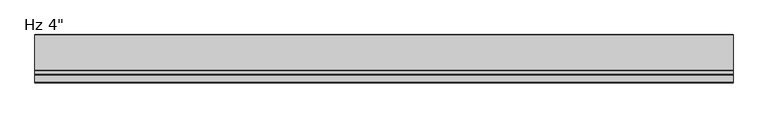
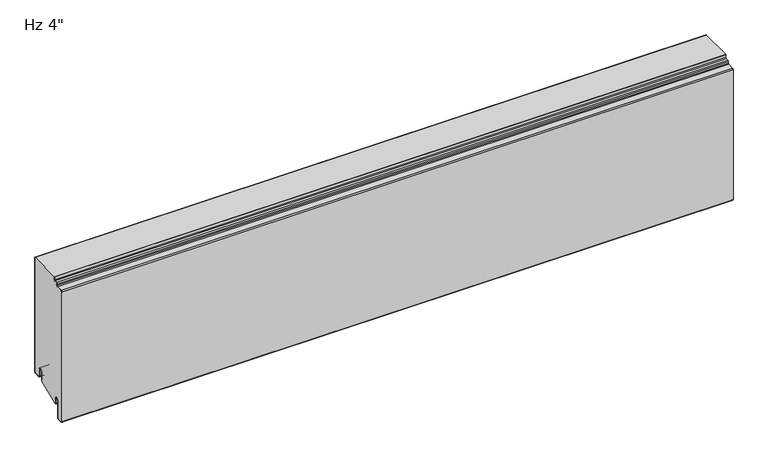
"""IFC4 building model written with IfcOpenShell, lengths in millimetres: plate geometry."""

from ifc_helpers import new_model, si_unit, point, frame, frame_2d, origin, place, context, project, spatial, polyline, circle_curve, trimmed, segment, composite_curve, outline, extrude, source, transform, mapped, element, save


def plate_f60e9f4d(model_context):
    return source(origin(), model_context, "Body", "SweptSolid", [
        extrude(outline(composite_curve([segment(trimmed(circle_curve(frame_2d((-21.43125, 19.05)), 4.96875), [point((-16.4625, 19.05))], [point((-26.4, 19.05))], True, "CARTESIAN"), True, "CONTINUOUS"), segment(polyline([(-26.4, 19.05), (-26.4, -3.1323422), (-74.6157227, -23.01875), (-76.2, -23.01875), (-76.2, -13.5080174), (-76.99375, -13.5080174), (-76.7875, -11.9205174)]), True, "CONTINUOUS"), segment(trimmed(circle_curve(frame_2d((-81.75625, -11.9205174)), 4.96875), [point((-76.7875, -11.9205174))], [point((-86.725, -11.9205174))], True, "CARTESIAN"), True, "CONTINUOUS"), segment(polyline([(-86.725, -11.9205174), (-86.725, -50.1038221)]), True, "CONTINUOUS"), segment(trimmed(circle_curve(frame_2d((-88.10625, -50.1038221)), 1.38125), [point((-86.725, -50.1038221))], [point((-88.033961, -51.4831791))], False, "CARTESIAN"), True, "CONTINUOUS"), segment(polyline([(-88.033961, -51.4831791), (-99.146461, -52.0655606)]), True, "CONTINUOUS"), segment(trimmed(circle_curve(frame_2d((-99.21875, -50.6862035)), 1.38125), [point((-99.146461, -52.0655606))], [point((-100.6, -50.6862035))], False, "CARTESIAN"), True, "CONTINUOUS"), segment(polyline([(-100.6, -50.6862035), (-100.6, 247.7572607)]), True, "CONTINUOUS"), segment(trimmed(circle_curve(frame_2d((-99.21875, 247.7572607)), 1.38125), [point((-100.6, 247.7572607))], [point((-99.291039, 249.1366177))], False, "CARTESIAN"), True, "CONTINUOUS"), segment(polyline([(-99.291039, 249.1366177), (-85.5895807, 249.8546807)]), True, "CONTINUOUS"), segment(trimmed(circle_curve(frame_2d((-85.725, 252.4386347)), 2.5875), [point((-85.5895807, 249.8546807))], [point((-83.1375, 252.4386347))], True, "CARTESIAN"), True, "CONTINUOUS"), segment(polyline([(-83.1375, 252.4386347), (-83.1375, 255.4824411)]), True, "CONTINUOUS"), segment(trimmed(circle_curve(frame_2d((-81.75625, 255.4824411)), 1.38125), [point((-83.1375, 255.4824411))], [point((-81.828539, 256.8617981))], False, "CARTESIAN"), True, "CONTINUOUS"), segment(polyline([(-81.828539, 256.8617981), (-76.0645807, 257.1638744)]), True, "CONTINUOUS"), segment(trimmed(circle_curve(frame_2d((-76.2, 259.7478283)), 2.5875), [point((-76.0645807, 257.1638744))], [point((-73.6125, 259.7478283))], True, "CARTESIAN"), True, "CONTINUOUS"), segment(polyline([(-73.6125, 259.7478283), (-73.6125, 266.4), (-1.0, 266.4), (-1.0, 3.175)]), True, "CONTINUOUS"), segment(trimmed(circle_curve(frame_2d((-2.38125, 3.175)), 1.38125), [point((-1.0, 3.175))], [point((-2.38125, 1.79375))], False, "CARTESIAN"), True, "CONTINUOUS"), segment(polyline([(-2.38125, 1.79375), (-15.08125, 1.79375)]), True, "CONTINUOUS"), segment(trimmed(circle_curve(frame_2d((-15.08125, 3.175)), 1.38125), [point((-15.08125, 1.79375))], [point((-16.4625, 3.175))], False, "CARTESIAN"), True, "CONTINUOUS"), segment(polyline([(-16.4625, 3.175), (-16.4625, 19.05)]), True, "CONTINUOUS")], self_intersect=False)), frame((-730.0, 0.0, 0.0), z_axis=(1.0, 0.0, 0.0), x_axis=(0.0, 1.0, 0.0)), (0.0, 0.0, 1.0), 1460.0),
        extrude(outline(composite_curve([segment(polyline([(-25.4, 0.79375), (-26.4, 0.79375), (-26.4, 19.05)]), True, "CONTINUOUS"), segment(trimmed(circle_curve(frame_2d((-21.43125, 19.05)), 4.96875), [point((-26.4, 19.05))], [point((-16.4625, 19.05))], False, "CARTESIAN"), True, "CONTINUOUS"), segment(polyline([(-16.4625, 19.05), (-16.4625, 3.175)]), True, "CONTINUOUS"), segment(trimmed(circle_curve(frame_2d((-15.08125, 3.175)), 1.38125), [point((-16.4625, 3.175))], [point((-15.08125, 1.79375))], True, "CARTESIAN"), True, "CONTINUOUS"), segment(polyline([(-15.08125, 1.79375), (-2.38125, 1.79375)]), True, "CONTINUOUS"), segment(trimmed(circle_curve(frame_2d((-2.38125, 3.175)), 1.38125), [point((-2.38125, 1.79375))], [point((-1.0, 3.175))], True, "CARTESIAN"), True, "CONTINUOUS"), segment(polyline([(-1.0, 3.175), (-1.0, 266.4), (0.0, 266.4), (0.0, 3.175)]), True, "CONTINUOUS"), segment(trimmed(circle_curve(frame_2d((-2.38125, 3.175)), 2.38125), [point((0.0, 3.175))], [point((-2.38125, 0.79375))], False, "CARTESIAN"), True, "CONTINUOUS"), segment(polyline([(-2.38125, 0.79375), (-15.08125, 0.79375)]), True, "CONTINUOUS"), segment(trimmed(circle_curve(frame_2d((-15.08125, 3.175)), 2.38125), [point((-15.08125, 0.79375))], [point((-17.4625, 3.175))], False, "CARTESIAN"), True, "CONTINUOUS"), segment(polyline([(-17.4625, 3.175), (-17.4625, 19.05)]), True, "CONTINUOUS"), segment(trimmed(circle_curve(frame_2d((-21.43125, 19.05)), 3.96875), [point((-17.4625, 19.05))], [point((-25.4, 19.05))], True, "CARTESIAN"), True, "CONTINUOUS"), segment(polyline([(-25.4, 19.05), (-25.4, 0.79375)]), True, "CONTINUOUS")], self_intersect=False)), frame((-730.0, 0.0, 0.0), z_axis=(1.0, 0.0, 0.0), x_axis=(0.0, 1.0, 0.0)), (0.0, 0.0, 1.0), 1460.0),
        extrude(outline(composite_curve([segment(trimmed(circle_curve(frame_2d((-76.99375, -23.2314549)), 0.79375), [point((-76.2, -23.2314549))], [point((-77.7875, -23.2314549))], False, "CARTESIAN"), True, "CONTINUOUS"), segment(polyline([(-77.7875, -23.2314549), (-77.7875, -11.9205174)]), True, "CONTINUOUS"), segment(trimmed(circle_curve(frame_2d((-81.75625, -11.9205174)), 3.96875), [point((-77.7875, -11.9205174))], [point((-85.725, -11.9205174))], True, "CARTESIAN"), True, "CONTINUOUS"), segment(polyline([(-85.725, -11.9205174), (-85.725, -50.1038221)]), True, "CONTINUOUS"), segment(trimmed(circle_curve(frame_2d((-88.10625, -50.1038221)), 2.38125), [point((-85.725, -50.1038221))], [point((-87.981625, -52.4818086))], False, "CARTESIAN"), True, "CONTINUOUS"), segment(polyline([(-87.981625, -52.4818086), (-99.094125, -53.0641901)]), True, "CONTINUOUS"), segment(trimmed(circle_curve(frame_2d((-99.21875, -50.6862035)), 2.38125), [point((-99.094125, -53.0641901))], [point((-101.6, -50.6862035))], False, "CARTESIAN"), True, "CONTINUOUS"), segment(polyline([(-101.6, -50.6862035), (-101.6, 247.7572607)]), True, "CONTINUOUS"), segment(trimmed(circle_curve(frame_2d((-99.21875, 247.7572607)), 2.38125), [point((-101.6, 247.7572607))], [point((-99.343375, 250.1352473))], False, "CARTESIAN"), True, "CONTINUOUS"), segment(polyline([(-99.343375, 250.1352473), (-85.6419167, 250.8533103)]), True, "CONTINUOUS"), segment(trimmed(circle_curve(frame_2d((-85.725, 252.4386347)), 1.5875), [point((-85.6419167, 250.8533103))], [point((-84.1375, 252.4386347))], True, "CARTESIAN"), True, "CONTINUOUS"), segment(polyline([(-84.1375, 252.4386347), (-84.1375, 255.4824411)]), True, "CONTINUOUS"), segment(trimmed(circle_curve(frame_2d((-81.75625, 255.4824411)), 2.38125), [point((-84.1375, 255.4824411))], [point((-81.880875, 257.8604276))], False, "CARTESIAN"), True, "CONTINUOUS"), segment(polyline([(-81.880875, 257.8604276), (-76.1169167, 258.1625039)]), True, "CONTINUOUS"), segment(trimmed(circle_curve(frame_2d((-76.2, 259.7478283)), 1.5875), [point((-76.1169167, 258.1625039))], [point((-74.6125, 259.7478283))], True, "CARTESIAN"), True, "CONTINUOUS"), segment(polyline([(-74.6125, 259.7478283), (-74.6125, 266.4), (-73.6125, 266.4), (-73.6125, 259.7478283)]), True, "CONTINUOUS"), segment(trimmed(circle_curve(frame_2d((-76.2, 259.7478283)), 2.5875), [point((-73.6125, 259.7478283))], [point((-76.0645807, 257.1638744))], False, "CARTESIAN"), True, "CONTINUOUS"), segment(polyline([(-76.0645807, 257.1638744), (-81.828539, 256.8617981)]), True, "CONTINUOUS"), segment(trimmed(circle_curve(frame_2d((-81.75625, 255.4824411)), 1.38125), [point((-81.828539, 256.8617981))], [point((-83.1375, 255.4824411))], True, "CARTESIAN"), True, "CONTINUOUS"), segment(polyline([(-83.1375, 255.4824411), (-83.1375, 252.4386347)]), True, "CONTINUOUS"), segment(trimmed(circle_curve(frame_2d((-85.725, 252.4386347)), 2.5875), [point((-83.1375, 252.4386347))], [point((-85.5895807, 249.8546807))], False, "CARTESIAN"), True, "CONTINUOUS"), segment(polyline([(-85.5895807, 249.8546807), (-99.291039, 249.1366177)]), True, "CONTINUOUS"), segment(trimmed(circle_curve(frame_2d((-99.21875, 247.7572607)), 1.38125), [point((-99.291039, 249.1366177))], [point((-100.6, 247.7572607))], True, "CARTESIAN"), True, "CONTINUOUS"), segment(polyline([(-100.6, 247.7572607), (-100.6, -50.6862035)]), True, "CONTINUOUS"), segment(trimmed(circle_curve(frame_2d((-99.21875, -50.6862035)), 1.38125), [point((-100.6, -50.6862035))], [point((-99.146461, -52.0655606))], True, "CARTESIAN"), True, "CONTINUOUS"), segment(polyline([(-99.146461, -52.0655606), (-88.033961, -51.4831791)]), True, "CONTINUOUS"), segment(trimmed(circle_curve(frame_2d((-88.10625, -50.1038221)), 1.38125), [point((-88.033961, -51.4831791))], [point((-86.725, -50.1038221))], True, "CARTESIAN"), True, "CONTINUOUS"), segment(polyline([(-86.725, -50.1038221), (-86.725, -11.9205174)]), True, "CONTINUOUS"), segment(trimmed(circle_curve(frame_2d((-81.75625, -11.9205174)), 4.96875), [point((-86.725, -11.9205174))], [point((-76.7875, -11.9205174))], False, "CARTESIAN"), True, "CONTINUOUS"), segment(polyline([(-76.7875, -11.9205174), (-76.99375, -13.5080174), (-76.2, -13.5080174), (-76.2, -23.2314549)]), True, "CONTINUOUS")], self_intersect=False)), frame((-730.0, 0.0, 0.0), z_axis=(1.0, 0.0, 0.0), x_axis=(0.0, 1.0, 0.0)), (0.0, 0.0, 1.0), 1460.0),
    ])


if __name__ == "__main__":
    model = new_model("IFC4")
    model_context = context("Model", 3, world=origin())
    ifc_project = project(units=[si_unit("LENGTHUNIT", "METRE", prefix="MILLI")], contexts=[model_context])
    site = spatial("IfcSite", under=ifc_project)
    building = spatial("IfcBuilding", under=site)
    placement = place(None, origin())
    plate_shape = plate_f60e9f4d(model_context)
    element("IfcPlate", 1, ObjectType="KIP-12-DWTR-R19-CP-Hz-F : Hz 4\"", at=placement, inside=building, context=model_context, shape_type="MappedRepresentation", body=[
        mapped(plate_shape, transform((0.0, 0.0, 0.0), x_axis=(1.0, 0.0, 0.0), y_axis=(0.0, 1.0, 0.0), z_axis=(0.0, 0.0, 1.0))),
    ])
    save(model, "model.ifc")
